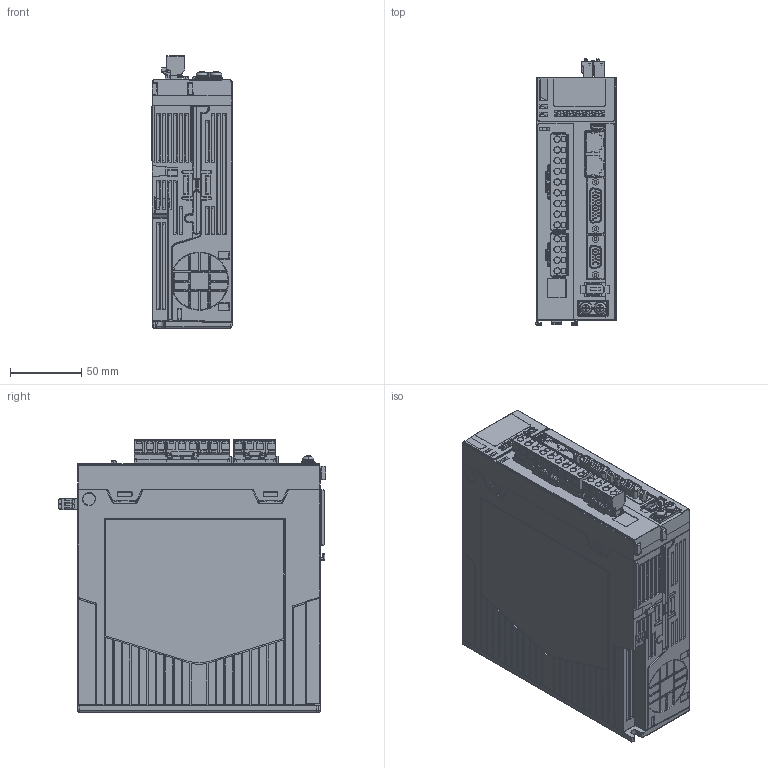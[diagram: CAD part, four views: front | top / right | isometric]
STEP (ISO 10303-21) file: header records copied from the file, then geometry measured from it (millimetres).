
FILE_DESCRIPTION((''),'2;1');
FILE_NAME('SV670N-INT-SIZE-C_ASM','2024-02-03T',('10009991'),(''),'CREO PARAMETRIC BY PTC INC, 2015290','CREO PARAMETRIC BY PTC INC, 2015290','');
FILE_SCHEMA(('AUTOMOTIVE_DESIGN { 1 0 10303 214 1 1 1 1 }'));
Products named in the file (6): SV670N-INT-SIZE-C; 9EDGK-7_5-04P_20180409_2_1_1_1; 9EDGK-7_5-09P_20180409_2_1_1_1; DZ_ASM_2_ASM_1_1_ASM_1_ASM; PXC_1707854_01_FMCD-4PIN_1_1__1; SV670N-INT-SIZE-C_ASM
Assembly tree (5 placements, depth 3):
  SV670N-INT-SIZE-C_ASM
    SV670N-INT-SIZE-C
    DZ_ASM_2_ASM_1_1_ASM_1_ASM
      9EDGK-7_5-04P_20180409_2_1_1_1
      9EDGK-7_5-09P_20180409_2_1_1_1
    PXC_1707854_01_FMCD-4PIN_1_1__1
Bounding box: 56.09 x 187.4 x 190.5 mm (x, y, z)
Volume: 1655910.8 mm3; surface area: 121495 mm2
Topology: 4 solids, 10 shells, 5488 faces, 14701 edges, 9418 vertices
Faces by surface type: plane 3567, cylinder 1207, cone 226, bspline 205, torus 130, sphere 77, extrusion 72, revolution 4
Entity records: 246708 total; most frequent: CARTESIAN_POINT 65922, ORIENTED_EDGE 29220, DIRECTION 26038, EDGE_CURVE 14610, VECTOR 10934, LINE 10862, PRESENTATION_STYLE_ASSIGNMENT 10277, STYLED_ITEM 9913
